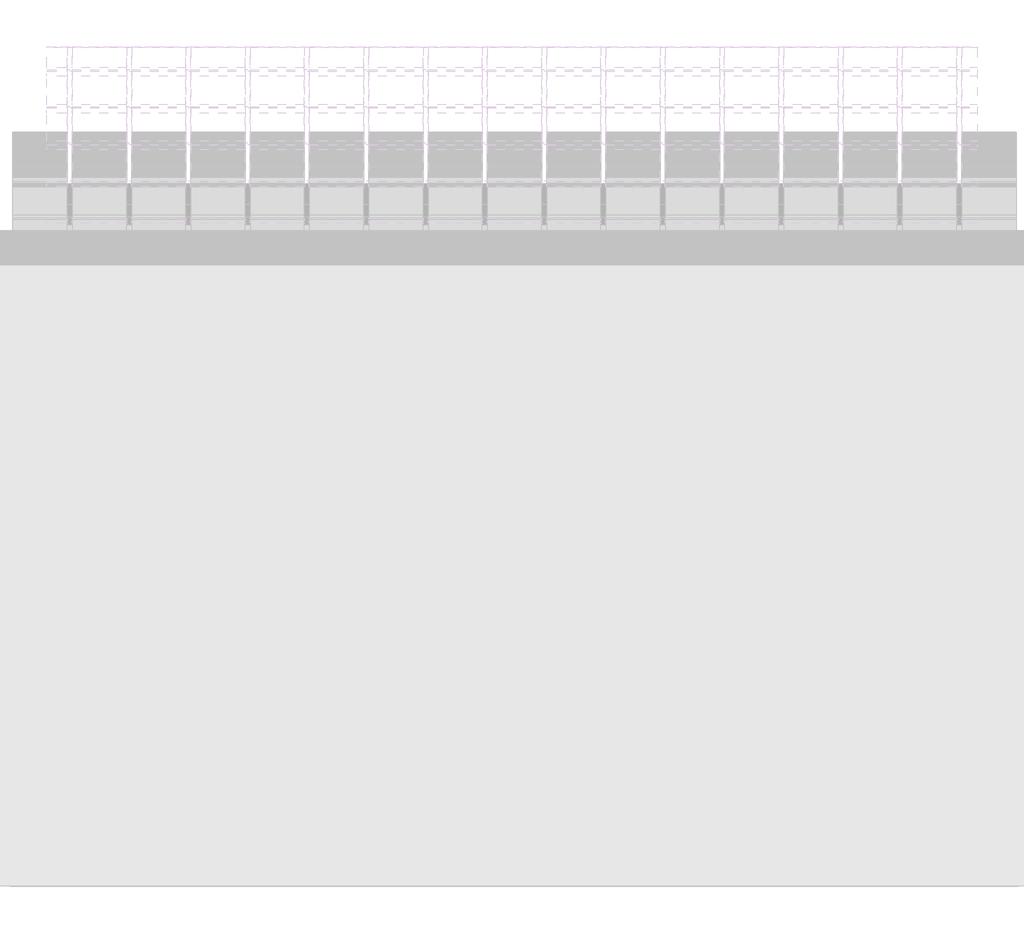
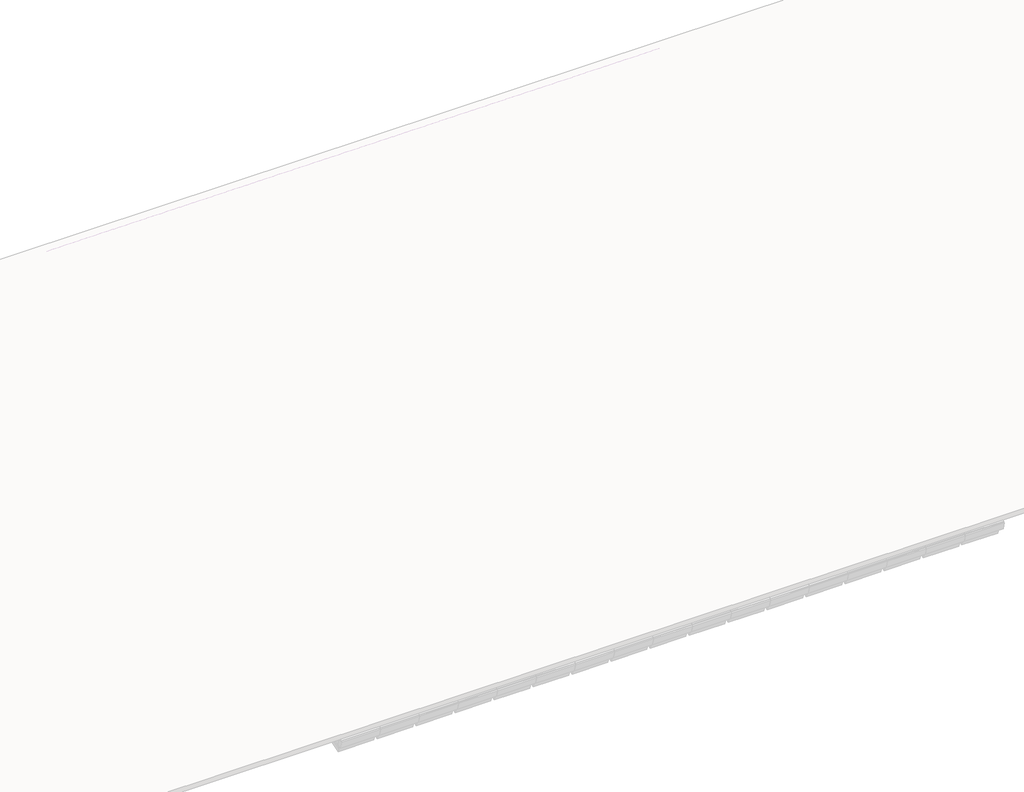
# One storey, part 35 of 57: 88 members, 36 plates.
"""IFC4 building model written with IfcOpenShell, lengths in millimetres."""

from ifc_helpers import new_model, si_unit, origin, place, context, project, spatial, transform, mapped, element, save
from components import rectangular_mullion_59984080, rectangular_mullion_2d2423ea, rectangular_mullion_caibro_e4384bba, rectangular_mullion_caibro_9bd7bc61, empty_system_panel_vazio_178faf58, empty_system_panel_vazio_2c78850d

model = new_model("IFC4")

# Units and contexts
model_context = context("Model", 3, world=origin())
ifc_project = project(units=[si_unit("LENGTHUNIT", "METRE", prefix="MILLI")], contexts=[model_context])

# Site, building, storey
site = spatial("IfcSite", under=ifc_project)
building = spatial("IfcBuilding", under=site)
storey = spatial("IfcBuildingStorey", under=building, Name="Nível 2", Elevation=4100.0)

# Members
placement = place(None, origin())
rectangular_mullion_shape = rectangular_mullion_59984080(model_context)
element("IfcMember", 1, ObjectType="Rectangular Mullion : Ripa", at=placement, inside=storey, context=model_context, shape_type="MappedRepresentation", body=[
    mapped(rectangular_mullion_shape, transform((28047.0899349, 8162.5832694, 3598.8241594), x_axis=(0.0, 0.9578262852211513, 0.2873478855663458), y_axis=(0.0, 0.2873478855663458, -0.9578262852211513), z_axis=(-1.0, 0.0, 0.0))),
])
element("IfcMember", 2, ObjectType="Rectangular Mullion : Ripa", at=placement, inside=storey, context=model_context, shape_type="MappedRepresentation", body=[
    mapped(rectangular_mullion_shape, transform((28644.1446913, 8162.5832694, 3598.8241594), x_axis=(0.0, 0.9578262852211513, 0.2873478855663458), y_axis=(0.0, 0.2873478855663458, -0.9578262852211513), z_axis=(-1.0, 0.0, 0.0))),
])
element("IfcMember", 3, ObjectType="Rectangular Mullion : Ripa", at=placement, inside=storey, context=model_context, shape_type="MappedRepresentation", body=[
    mapped(rectangular_mullion_shape, transform((29241.1994477, 8162.5832694, 3598.8241594), x_axis=(0.0, 0.9578262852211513, 0.2873478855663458), y_axis=(0.0, 0.2873478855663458, -0.9578262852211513), z_axis=(-1.0, 0.0, 0.0))),
])
element("IfcMember", 4, ObjectType="Rectangular Mullion : Ripa", at=placement, inside=storey, context=model_context, shape_type="MappedRepresentation", body=[
    mapped(rectangular_mullion_shape, transform((29838.2542041, 8162.5832694, 3598.8241594), x_axis=(0.0, 0.9578262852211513, 0.2873478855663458), y_axis=(0.0, 0.2873478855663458, -0.9578262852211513), z_axis=(-1.0, 0.0, 0.0))),
])
element("IfcMember", 5, ObjectType="Rectangular Mullion : Ripa", at=placement, inside=storey, context=model_context, shape_type="MappedRepresentation", body=[
    mapped(rectangular_mullion_shape, transform((28047.0899349, 8532.7605281, 3709.877337), x_axis=(0.0, 0.9578262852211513, 0.2873478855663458), y_axis=(0.0, 0.2873478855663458, -0.9578262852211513), z_axis=(-1.0, 0.0, 0.0))),
])
element("IfcMember", 6, ObjectType="Rectangular Mullion : Ripa", at=placement, inside=storey, context=model_context, shape_type="MappedRepresentation", body=[
    mapped(rectangular_mullion_shape, transform((28644.1446913, 8532.7605281, 3709.877337), x_axis=(0.0, 0.9578262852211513, 0.2873478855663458), y_axis=(0.0, 0.2873478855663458, -0.9578262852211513), z_axis=(-1.0, 0.0, 0.0))),
])
element("IfcMember", 7, ObjectType="Rectangular Mullion : Ripa", at=placement, inside=storey, context=model_context, shape_type="MappedRepresentation", body=[
    mapped(rectangular_mullion_shape, transform((29241.1994477, 8532.7605281, 3709.877337), x_axis=(0.0, 0.9578262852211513, 0.2873478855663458), y_axis=(0.0, 0.2873478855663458, -0.9578262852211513), z_axis=(-1.0, 0.0, 0.0))),
])
element("IfcMember", 8, ObjectType="Rectangular Mullion : Ripa", at=placement, inside=storey, context=model_context, shape_type="MappedRepresentation", body=[
    mapped(rectangular_mullion_shape, transform((29838.2542041, 8532.7605281, 3709.877337), x_axis=(0.0, 0.9578262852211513, 0.2873478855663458), y_axis=(0.0, 0.2873478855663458, -0.9578262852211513), z_axis=(-1.0, 0.0, 0.0))),
])
element("IfcMember", 9, ObjectType="Rectangular Mullion : Ripa", at=placement, inside=storey, context=model_context, shape_type="MappedRepresentation", body=[
    mapped(rectangular_mullion_shape, transform((28047.0899349, 8902.9377868, 3820.9305146), x_axis=(0.0, 0.9578262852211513, 0.2873478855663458), y_axis=(0.0, 0.2873478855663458, -0.9578262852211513), z_axis=(-1.0, 0.0, 0.0))),
])
element("IfcMember", 10, ObjectType="Rectangular Mullion : Ripa", at=placement, inside=storey, context=model_context, shape_type="MappedRepresentation", body=[
    mapped(rectangular_mullion_shape, transform((28644.1446913, 8902.9377868, 3820.9305146), x_axis=(0.0, 0.9578262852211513, 0.2873478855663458), y_axis=(0.0, 0.2873478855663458, -0.9578262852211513), z_axis=(-1.0, 0.0, 0.0))),
])
element("IfcMember", 11, ObjectType="Rectangular Mullion : Ripa", at=placement, inside=storey, context=model_context, shape_type="MappedRepresentation", body=[
    mapped(rectangular_mullion_shape, transform((29241.1994477, 8902.9377868, 3820.9305146), x_axis=(0.0, 0.9578262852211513, 0.2873478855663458), y_axis=(0.0, 0.2873478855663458, -0.9578262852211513), z_axis=(-1.0, 0.0, 0.0))),
])
element("IfcMember", 12, ObjectType="Rectangular Mullion : Ripa", at=placement, inside=storey, context=model_context, shape_type="MappedRepresentation", body=[
    mapped(rectangular_mullion_shape, transform((29838.2542041, 8902.9377868, 3820.9305146), x_axis=(0.0, 0.9578262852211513, 0.2873478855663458), y_axis=(0.0, 0.2873478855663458, -0.9578262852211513), z_axis=(-1.0, 0.0, 0.0))),
])
element("IfcMember", 13, ObjectType="Rectangular Mullion : Ripa", at=placement, inside=storey, context=model_context, shape_type="MappedRepresentation", body=[
    mapped(rectangular_mullion_shape, transform((28047.0899349, 9273.1150454, 3931.9836922), x_axis=(0.0, 0.9578262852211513, 0.2873478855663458), y_axis=(0.0, 0.2873478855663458, -0.9578262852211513), z_axis=(-1.0, 0.0, 0.0))),
])
element("IfcMember", 14, ObjectType="Rectangular Mullion : Ripa", at=placement, inside=storey, context=model_context, shape_type="MappedRepresentation", body=[
    mapped(rectangular_mullion_shape, transform((28644.1446913, 9273.1150454, 3931.9836922), x_axis=(0.0, 0.9578262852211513, 0.2873478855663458), y_axis=(0.0, 0.2873478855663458, -0.9578262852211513), z_axis=(-1.0, 0.0, 0.0))),
])
element("IfcMember", 15, ObjectType="Rectangular Mullion : Ripa", at=placement, inside=storey, context=model_context, shape_type="MappedRepresentation", body=[
    mapped(rectangular_mullion_shape, transform((26255.9256656, 10013.4695628, 4154.0900474), x_axis=(0.0, 0.9578262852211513, 0.2873478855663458), y_axis=(0.0, 0.2873478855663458, -0.9578262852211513), z_axis=(-1.0, 0.0, 0.0))),
])
element("IfcMember", 16, ObjectType="Rectangular Mullion : Ripa", at=placement, inside=storey, context=model_context, shape_type="MappedRepresentation", body=[
    mapped(rectangular_mullion_shape, transform((26852.980422, 10013.4695628, 4154.0900474), x_axis=(0.0, 0.9578262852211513, 0.2873478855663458), y_axis=(0.0, 0.2873478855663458, -0.9578262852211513), z_axis=(-1.0, 0.0, 0.0))),
])
element("IfcMember", 17, ObjectType="Rectangular Mullion : Ripa", at=placement, inside=storey, context=model_context, shape_type="MappedRepresentation", body=[
    mapped(rectangular_mullion_shape, transform((27450.0351784, 10013.4695628, 4154.0900474), x_axis=(0.0, 0.9578262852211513, 0.2873478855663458), y_axis=(0.0, 0.2873478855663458, -0.9578262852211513), z_axis=(-1.0, 0.0, 0.0))),
])
element("IfcMember", 18, ObjectType="Rectangular Mullion : Ripa", at=placement, inside=storey, context=model_context, shape_type="MappedRepresentation", body=[
    mapped(rectangular_mullion_shape, transform((26255.9256656, 10383.6468214, 4265.143225), x_axis=(0.0, 0.9578262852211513, 0.2873478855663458), y_axis=(0.0, 0.2873478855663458, -0.9578262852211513), z_axis=(-1.0, 0.0, 0.0))),
])
element("IfcMember", 19, ObjectType="Rectangular Mullion : Ripa", at=placement, inside=storey, context=model_context, shape_type="MappedRepresentation", body=[
    mapped(rectangular_mullion_shape, transform((26852.980422, 10383.6468214, 4265.143225), x_axis=(0.0, 0.9578262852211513, 0.2873478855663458), y_axis=(0.0, 0.2873478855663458, -0.9578262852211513), z_axis=(-1.0, 0.0, 0.0))),
])
element("IfcMember", 20, ObjectType="Rectangular Mullion : Ripa", at=placement, inside=storey, context=model_context, shape_type="MappedRepresentation", body=[
    mapped(rectangular_mullion_shape, transform((27450.0351784, 10383.6468214, 4265.143225), x_axis=(0.0, 0.9578262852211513, 0.2873478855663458), y_axis=(0.0, 0.2873478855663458, -0.9578262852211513), z_axis=(-1.0, 0.0, 0.0))),
])
element("IfcMember", 21, ObjectType="Rectangular Mullion : Ripa", at=placement, inside=storey, context=model_context, shape_type="MappedRepresentation", body=[
    mapped(rectangular_mullion_shape, transform((26255.9256656, 10753.8240801, 4376.1964026), x_axis=(0.0, 0.9578262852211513, 0.2873478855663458), y_axis=(0.0, 0.2873478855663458, -0.9578262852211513), z_axis=(-1.0, 0.0, 0.0))),
])
element("IfcMember", 22, ObjectType="Rectangular Mullion : Ripa", at=placement, inside=storey, context=model_context, shape_type="MappedRepresentation", body=[
    mapped(rectangular_mullion_shape, transform((26852.980422, 10753.8240801, 4376.1964026), x_axis=(0.0, 0.9578262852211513, 0.2873478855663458), y_axis=(0.0, 0.2873478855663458, -0.9578262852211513), z_axis=(-1.0, 0.0, 0.0))),
])
element("IfcMember", 23, ObjectType="Rectangular Mullion : Ripa", at=placement, inside=storey, context=model_context, shape_type="MappedRepresentation", body=[
    mapped(rectangular_mullion_shape, transform((27450.0351784, 10753.8240801, 4376.1964026), x_axis=(0.0, 0.9578262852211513, 0.2873478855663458), y_axis=(0.0, 0.2873478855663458, -0.9578262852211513), z_axis=(-1.0, 0.0, 0.0))),
])
element("IfcMember", 24, ObjectType="Rectangular Mullion : Ripa", at=placement, inside=storey, context=model_context, shape_type="MappedRepresentation", body=[
    mapped(rectangular_mullion_shape, transform((25061.8161527, 11124.0013387, 4487.2495802), x_axis=(0.0, 0.9578262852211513, 0.2873478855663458), y_axis=(0.0, 0.2873478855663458, -0.9578262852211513), z_axis=(-1.0, 0.0, 0.0))),
])
element("IfcMember", 25, ObjectType="Rectangular Mullion : Ripa", at=placement, inside=storey, context=model_context, shape_type="MappedRepresentation", body=[
    mapped(rectangular_mullion_shape, transform((25658.8709092, 11124.0013387, 4487.2495802), x_axis=(0.0, 0.9578262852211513, 0.2873478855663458), y_axis=(0.0, 0.2873478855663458, -0.9578262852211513), z_axis=(-1.0, 0.0, 0.0))),
])
element("IfcMember", 26, ObjectType="Rectangular Mullion : Ripa", at=placement, inside=storey, context=model_context, shape_type="MappedRepresentation", body=[
    mapped(rectangular_mullion_shape, transform((26255.9256656, 11124.0013387, 4487.2495802), x_axis=(0.0, 0.9578262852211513, 0.2873478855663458), y_axis=(0.0, 0.2873478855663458, -0.9578262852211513), z_axis=(-1.0, 0.0, 0.0))),
])
element("IfcMember", 27, ObjectType="Rectangular Mullion : Ripa", at=placement, inside=storey, context=model_context, shape_type="MappedRepresentation", body=[
    mapped(rectangular_mullion_shape, transform((26852.980422, 11124.0013387, 4487.2495802), x_axis=(0.0, 0.9578262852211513, 0.2873478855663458), y_axis=(0.0, 0.2873478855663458, -0.9578262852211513), z_axis=(-1.0, 0.0, 0.0))),
])
element("IfcMember", 28, ObjectType="Rectangular Mullion : Ripa", at=placement, inside=storey, context=model_context, shape_type="MappedRepresentation", body=[
    mapped(rectangular_mullion_shape, transform((27450.0351784, 11124.0013387, 4487.2495802), x_axis=(0.0, 0.9578262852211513, 0.2873478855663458), y_axis=(0.0, 0.2873478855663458, -0.9578262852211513), z_axis=(-1.0, 0.0, 0.0))),
])
element("IfcMember", 29, ObjectType="Rectangular Mullion : Ripa", at=placement, inside=storey, context=model_context, shape_type="MappedRepresentation", body=[
    mapped(rectangular_mullion_shape, transform((25061.8161527, 11494.1785974, 4598.3027578), x_axis=(0.0, 0.9578262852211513, 0.2873478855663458), y_axis=(0.0, 0.2873478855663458, -0.9578262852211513), z_axis=(-1.0, 0.0, 0.0))),
])
element("IfcMember", 30, ObjectType="Rectangular Mullion : Ripa", at=placement, inside=storey, context=model_context, shape_type="MappedRepresentation", body=[
    mapped(rectangular_mullion_shape, transform((25658.8709092, 11494.1785974, 4598.3027578), x_axis=(0.0, 0.9578262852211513, 0.2873478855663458), y_axis=(0.0, 0.2873478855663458, -0.9578262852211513), z_axis=(-1.0, 0.0, 0.0))),
])
element("IfcMember", 31, ObjectType="Rectangular Mullion : Ripa", at=placement, inside=storey, context=model_context, shape_type="MappedRepresentation", body=[
    mapped(rectangular_mullion_shape, transform((26255.9256656, 11494.1785974, 4598.3027578), x_axis=(0.0, 0.9578262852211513, 0.2873478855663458), y_axis=(0.0, 0.2873478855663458, -0.9578262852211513), z_axis=(-1.0, 0.0, 0.0))),
])
element("IfcMember", 32, ObjectType="Rectangular Mullion : Ripa", at=placement, inside=storey, context=model_context, shape_type="MappedRepresentation", body=[
    mapped(rectangular_mullion_shape, transform((26852.980422, 11494.1785974, 4598.3027578), x_axis=(0.0, 0.9578262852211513, 0.2873478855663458), y_axis=(0.0, 0.2873478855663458, -0.9578262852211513), z_axis=(-1.0, 0.0, 0.0))),
])
element("IfcMember", 33, ObjectType="Rectangular Mullion : Ripa", at=placement, inside=storey, context=model_context, shape_type="MappedRepresentation", body=[
    mapped(rectangular_mullion_shape, transform((27450.0351784, 11494.1785974, 4598.3027578), x_axis=(0.0, 0.9578262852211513, 0.2873478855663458), y_axis=(0.0, 0.2873478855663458, -0.9578262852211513), z_axis=(-1.0, 0.0, 0.0))),
])
element("IfcMember", 34, ObjectType="Rectangular Mullion : Ripa", at=placement, inside=storey, context=model_context, shape_type="MappedRepresentation", body=[
    mapped(rectangular_mullion_shape, transform((25061.8161527, 11864.3558561, 4709.3559354), x_axis=(0.0, 0.9578262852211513, 0.2873478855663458), y_axis=(0.0, 0.2873478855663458, -0.9578262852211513), z_axis=(-1.0, 0.0, 0.0))),
])
element("IfcMember", 35, ObjectType="Rectangular Mullion : Ripa", at=placement, inside=storey, context=model_context, shape_type="MappedRepresentation", body=[
    mapped(rectangular_mullion_shape, transform((25658.8709092, 11864.3558561, 4709.3559354), x_axis=(0.0, 0.9578262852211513, 0.2873478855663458), y_axis=(0.0, 0.2873478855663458, -0.9578262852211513), z_axis=(-1.0, 0.0, 0.0))),
])
element("IfcMember", 36, ObjectType="Rectangular Mullion : Ripa", at=placement, inside=storey, context=model_context, shape_type="MappedRepresentation", body=[
    mapped(rectangular_mullion_shape, transform((26255.9256656, 11864.3558561, 4709.3559354), x_axis=(0.0, 0.9578262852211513, 0.2873478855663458), y_axis=(0.0, 0.2873478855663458, -0.9578262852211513), z_axis=(-1.0, 0.0, 0.0))),
])
element("IfcMember", 37, ObjectType="Rectangular Mullion : Ripa", at=placement, inside=storey, context=model_context, shape_type="MappedRepresentation", body=[
    mapped(rectangular_mullion_shape, transform((26852.980422, 11864.3558561, 4709.3559354), x_axis=(0.0, 0.9578262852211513, 0.2873478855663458), y_axis=(0.0, 0.2873478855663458, -0.9578262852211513), z_axis=(-1.0, 0.0, 0.0))),
])
element("IfcMember", 38, ObjectType="Rectangular Mullion : Ripa", at=placement, inside=storey, context=model_context, shape_type="MappedRepresentation", body=[
    mapped(rectangular_mullion_shape, transform((27450.0351784, 11864.3558561, 4709.3559354), x_axis=(0.0, 0.9578262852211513, 0.2873478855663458), y_axis=(0.0, 0.2873478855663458, -0.9578262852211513), z_axis=(-1.0, 0.0, 0.0))),
])
rectangular_mullion_2_shape = rectangular_mullion_2d2423ea(model_context)
element("IfcMember", 39, ObjectType="Rectangular Mullion : Terça", at=placement, inside=storey, context=model_context, shape_type="MappedRepresentation", body=[
    mapped(rectangular_mullion_2_shape, transform((25061.8161527, 11285.144311, 4472.9506328), x_axis=(0.0, 0.9578262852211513, 0.2873478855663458), y_axis=(0.0, 0.2873478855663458, -0.9578262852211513), z_axis=(-1.0, 0.0, 0.0))),
])
element("IfcMember", 40, ObjectType="Rectangular Mullion : Terça", at=placement, inside=storey, context=model_context, shape_type="MappedRepresentation", body=[
    mapped(rectangular_mullion_2_shape, transform((25658.8709092, 11285.144311, 4472.9506328), x_axis=(0.0, 0.9578262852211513, 0.2873478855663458), y_axis=(0.0, 0.2873478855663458, -0.9578262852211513), z_axis=(-1.0, 0.0, 0.0))),
])
element("IfcMember", 41, ObjectType="Rectangular Mullion : Terça", at=placement, inside=storey, context=model_context, shape_type="MappedRepresentation", body=[
    mapped(rectangular_mullion_2_shape, transform((26255.9256656, 11285.144311, 4472.9506328), x_axis=(0.0, 0.9578262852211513, 0.2873478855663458), y_axis=(0.0, 0.2873478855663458, -0.9578262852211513), z_axis=(-1.0, 0.0, 0.0))),
])
element("IfcMember", 42, ObjectType="Rectangular Mullion : Terça", at=placement, inside=storey, context=model_context, shape_type="MappedRepresentation", body=[
    mapped(rectangular_mullion_2_shape, transform((26852.980422, 11285.144311, 4472.9506328), x_axis=(0.0, 0.9578262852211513, 0.2873478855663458), y_axis=(0.0, 0.2873478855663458, -0.9578262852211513), z_axis=(-1.0, 0.0, 0.0))),
])
element("IfcMember", 43, ObjectType="Rectangular Mullion : Terça", at=placement, inside=storey, context=model_context, shape_type="MappedRepresentation", body=[
    mapped(rectangular_mullion_2_shape, transform((27450.0351784, 11285.144311, 4472.9506328), x_axis=(0.0, 0.9578262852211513, 0.2873478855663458), y_axis=(0.0, 0.2873478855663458, -0.9578262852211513), z_axis=(-1.0, 0.0, 0.0))),
])
rectangular_mullion_caibro_shape = rectangular_mullion_caibro_e4384bba(model_context)
element("IfcMember", 44, ObjectType="Rectangular Mullion : Caibro", at=placement, inside=storey, context=model_context, shape_type="MappedRepresentation", body=[
    mapped(rectangular_mullion_caibro_shape, transform((25036.8161527, 11124.0013387, 4487.2495802), x_axis=(1.0, 0.0, 0.0), y_axis=(0.0, 0.28734788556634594, -0.9578262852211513), z_axis=(0.0, 0.9578262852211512, 0.2873478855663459))),
])
element("IfcMember", 45, ObjectType="Rectangular Mullion : Caibro", at=placement, inside=storey, context=model_context, shape_type="MappedRepresentation", body=[
    mapped(rectangular_mullion_caibro_shape, transform((25036.8161527, 11494.1785974, 4598.3027578), x_axis=(1.0, 0.0, 0.0), y_axis=(0.0, 0.287347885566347, -0.9578262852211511), z_axis=(0.0, 0.9578262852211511, 0.287347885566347))),
])
element("IfcMember", 46, ObjectType="Rectangular Mullion : Caibro", at=placement, inside=storey, context=model_context, shape_type="MappedRepresentation", body=[
    mapped(rectangular_mullion_caibro_shape, transform((25036.8161527, 11864.3558561, 4709.3559354), x_axis=(1.0, 0.0, 0.0), y_axis=(0.0, 0.28734788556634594, -0.9578262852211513), z_axis=(0.0, 0.9578262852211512, 0.2873478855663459))),
])
element("IfcMember", 47, ObjectType="Rectangular Mullion : Caibro", at=placement, inside=storey, context=model_context, shape_type="MappedRepresentation", body=[
    mapped(rectangular_mullion_caibro_shape, transform((25633.8709092, 11124.0013387, 4487.2495802), x_axis=(1.0, 0.0, 0.0), y_axis=(0.0, 0.2873478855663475, -0.9578262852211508), z_axis=(0.0, 0.9578262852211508, 0.2873478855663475))),
])
element("IfcMember", 48, ObjectType="Rectangular Mullion : Caibro", at=placement, inside=storey, context=model_context, shape_type="MappedRepresentation", body=[
    mapped(rectangular_mullion_caibro_shape, transform((25633.8709092, 11494.1785974, 4598.3027578), x_axis=(1.0, 0.0, 0.0), y_axis=(0.0, 0.28734788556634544, -0.9578262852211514), z_axis=(0.0, 0.9578262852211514, 0.28734788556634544))),
])
element("IfcMember", 49, ObjectType="Rectangular Mullion : Caibro", at=placement, inside=storey, context=model_context, shape_type="MappedRepresentation", body=[
    mapped(rectangular_mullion_caibro_shape, transform((25633.8709092, 11864.3558561, 4709.3559354), x_axis=(1.0, 0.0, 0.0), y_axis=(0.0, 0.28734788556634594, -0.9578262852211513), z_axis=(0.0, 0.9578262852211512, 0.2873478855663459))),
])
element("IfcMember", 50, ObjectType="Rectangular Mullion : Caibro", at=placement, inside=storey, context=model_context, shape_type="MappedRepresentation", body=[
    mapped(rectangular_mullion_caibro_shape, transform((26230.9256656, 10013.4695628, 4154.0900474), x_axis=(1.0, 0.0, 0.0), y_axis=(0.0, 0.28734788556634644, -0.9578262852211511), z_axis=(0.0, 0.957826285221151, 0.2873478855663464))),
])
element("IfcMember", 51, ObjectType="Rectangular Mullion : Caibro", at=placement, inside=storey, context=model_context, shape_type="MappedRepresentation", body=[
    mapped(rectangular_mullion_caibro_shape, transform((26230.9256656, 10383.6468214, 4265.143225), x_axis=(1.0, 0.0, 0.0), y_axis=(0.0, 0.28734788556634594, -0.9578262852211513), z_axis=(0.0, 0.9578262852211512, 0.2873478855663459))),
])
element("IfcMember", 52, ObjectType="Rectangular Mullion : Caibro", at=placement, inside=storey, context=model_context, shape_type="MappedRepresentation", body=[
    mapped(rectangular_mullion_caibro_shape, transform((26230.9256656, 10753.8240801, 4376.1964026), x_axis=(1.0, 0.0, 0.0), y_axis=(0.0, 0.28734788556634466, -0.9578262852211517), z_axis=(0.0, 0.9578262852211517, 0.28734788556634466))),
])
element("IfcMember", 53, ObjectType="Rectangular Mullion : Caibro", at=placement, inside=storey, context=model_context, shape_type="MappedRepresentation", body=[
    mapped(rectangular_mullion_caibro_shape, transform((26230.9256656, 11124.0013387, 4487.2495802), x_axis=(1.0, 0.0, 0.0), y_axis=(0.0, 0.2873478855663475, -0.9578262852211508), z_axis=(0.0, 0.9578262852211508, 0.2873478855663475))),
])
element("IfcMember", 54, ObjectType="Rectangular Mullion : Caibro", at=placement, inside=storey, context=model_context, shape_type="MappedRepresentation", body=[
    mapped(rectangular_mullion_caibro_shape, transform((26230.9256656, 11494.1785974, 4598.3027578), x_axis=(1.0, 0.0, 0.0), y_axis=(0.0, 0.28734788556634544, -0.9578262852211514), z_axis=(0.0, 0.9578262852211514, 0.28734788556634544))),
])
element("IfcMember", 55, ObjectType="Rectangular Mullion : Caibro", at=placement, inside=storey, context=model_context, shape_type="MappedRepresentation", body=[
    mapped(rectangular_mullion_caibro_shape, transform((26230.9256656, 11864.3558561, 4709.3559354), x_axis=(1.0, 0.0, 0.0), y_axis=(0.0, 0.28734788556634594, -0.9578262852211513), z_axis=(0.0, 0.9578262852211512, 0.2873478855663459))),
])
element("IfcMember", 56, ObjectType="Rectangular Mullion : Caibro", at=placement, inside=storey, context=model_context, shape_type="MappedRepresentation", body=[
    mapped(rectangular_mullion_caibro_shape, transform((26827.980422, 10013.4695628, 4154.0900474), x_axis=(1.0, 0.0, 0.0), y_axis=(0.0, 0.28734788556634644, -0.9578262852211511), z_axis=(0.0, 0.957826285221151, 0.2873478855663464))),
])
element("IfcMember", 57, ObjectType="Rectangular Mullion : Caibro", at=placement, inside=storey, context=model_context, shape_type="MappedRepresentation", body=[
    mapped(rectangular_mullion_caibro_shape, transform((26827.980422, 10383.6468214, 4265.143225), x_axis=(1.0, 0.0, 0.0), y_axis=(0.0, 0.28734788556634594, -0.9578262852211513), z_axis=(0.0, 0.9578262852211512, 0.2873478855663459))),
])
element("IfcMember", 58, ObjectType="Rectangular Mullion : Caibro", at=placement, inside=storey, context=model_context, shape_type="MappedRepresentation", body=[
    mapped(rectangular_mullion_caibro_shape, transform((26827.980422, 10753.8240801, 4376.1964026), x_axis=(1.0, 0.0, 0.0), y_axis=(0.0, 0.28734788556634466, -0.9578262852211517), z_axis=(0.0, 0.9578262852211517, 0.28734788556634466))),
])
element("IfcMember", 59, ObjectType="Rectangular Mullion : Caibro", at=placement, inside=storey, context=model_context, shape_type="MappedRepresentation", body=[
    mapped(rectangular_mullion_caibro_shape, transform((26827.980422, 11124.0013387, 4487.2495802), x_axis=(1.0, 0.0, 0.0), y_axis=(0.0, 0.2873478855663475, -0.9578262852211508), z_axis=(0.0, 0.9578262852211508, 0.2873478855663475))),
])
element("IfcMember", 60, ObjectType="Rectangular Mullion : Caibro", at=placement, inside=storey, context=model_context, shape_type="MappedRepresentation", body=[
    mapped(rectangular_mullion_caibro_shape, transform((26827.980422, 11494.1785974, 4598.3027578), x_axis=(1.0, 0.0, 0.0), y_axis=(0.0, 0.28734788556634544, -0.9578262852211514), z_axis=(0.0, 0.9578262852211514, 0.28734788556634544))),
])
element("IfcMember", 61, ObjectType="Rectangular Mullion : Caibro", at=placement, inside=storey, context=model_context, shape_type="MappedRepresentation", body=[
    mapped(rectangular_mullion_caibro_shape, transform((26827.980422, 11864.3558561, 4709.3559354), x_axis=(1.0, 0.0, 0.0), y_axis=(0.0, 0.28734788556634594, -0.9578262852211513), z_axis=(0.0, 0.9578262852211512, 0.2873478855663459))),
])
element("IfcMember", 62, ObjectType="Rectangular Mullion : Caibro", at=placement, inside=storey, context=model_context, shape_type="MappedRepresentation", body=[
    mapped(rectangular_mullion_caibro_shape, transform((27425.0351784, 10013.4695628, 4154.0900474), x_axis=(1.0, 0.0, 0.0), y_axis=(0.0, 0.2873478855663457, -0.9578262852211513), z_axis=(0.0, 0.9578262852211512, 0.28734788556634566))),
])
element("IfcMember", 63, ObjectType="Rectangular Mullion : Caibro", at=placement, inside=storey, context=model_context, shape_type="MappedRepresentation", body=[
    mapped(rectangular_mullion_caibro_shape, transform((27425.0351784, 10383.6468214, 4265.143225), x_axis=(1.0, 0.0, 0.0), y_axis=(0.0, 0.28734788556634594, -0.9578262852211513), z_axis=(0.0, 0.9578262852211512, 0.2873478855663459))),
])
element("IfcMember", 64, ObjectType="Rectangular Mullion : Caibro", at=placement, inside=storey, context=model_context, shape_type="MappedRepresentation", body=[
    mapped(rectangular_mullion_caibro_shape, transform((27425.0351784, 10753.8240801, 4376.1964026), x_axis=(1.0, 0.0, 0.0), y_axis=(0.0, 0.28734788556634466, -0.9578262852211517), z_axis=(0.0, 0.9578262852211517, 0.28734788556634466))),
])
element("IfcMember", 65, ObjectType="Rectangular Mullion : Caibro", at=placement, inside=storey, context=model_context, shape_type="MappedRepresentation", body=[
    mapped(rectangular_mullion_caibro_shape, transform((27425.0351784, 11124.0013387, 4487.2495802), x_axis=(1.0, 0.0, 0.0), y_axis=(0.0, 0.28734788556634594, -0.9578262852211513), z_axis=(0.0, 0.9578262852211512, 0.2873478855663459))),
])
element("IfcMember", 66, ObjectType="Rectangular Mullion : Caibro", at=placement, inside=storey, context=model_context, shape_type="MappedRepresentation", body=[
    mapped(rectangular_mullion_caibro_shape, transform((27425.0351784, 11494.1785974, 4598.3027578), x_axis=(1.0, 0.0, 0.0), y_axis=(0.0, 0.287347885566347, -0.9578262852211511), z_axis=(0.0, 0.9578262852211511, 0.287347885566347))),
])
element("IfcMember", 67, ObjectType="Rectangular Mullion : Caibro", at=placement, inside=storey, context=model_context, shape_type="MappedRepresentation", body=[
    mapped(rectangular_mullion_caibro_shape, transform((27425.0351784, 11864.3558561, 4709.3559354), x_axis=(1.0, 0.0, 0.0), y_axis=(0.0, 0.28734788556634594, -0.9578262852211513), z_axis=(0.0, 0.9578262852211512, 0.2873478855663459))),
])
element("IfcMember", 68, ObjectType="Rectangular Mullion : Caibro", at=placement, inside=storey, context=model_context, shape_type="MappedRepresentation", body=[
    mapped(rectangular_mullion_caibro_shape, transform((28022.0899349, 8162.5832694, 3598.8241594), x_axis=(1.0, 0.0, 0.0), y_axis=(0.0, 0.28734788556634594, -0.9578262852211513), z_axis=(0.0, 0.9578262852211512, 0.2873478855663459))),
])
element("IfcMember", 69, ObjectType="Rectangular Mullion : Caibro", at=placement, inside=storey, context=model_context, shape_type="MappedRepresentation", body=[
    mapped(rectangular_mullion_caibro_shape, transform((28022.0899349, 8532.7605281, 3709.877337), x_axis=(1.0, 0.0, 0.0), y_axis=(0.0, 0.2873478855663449, -0.9578262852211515), z_axis=(0.0, 0.9578262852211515, 0.2873478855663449))),
])
element("IfcMember", 70, ObjectType="Rectangular Mullion : Caibro", at=placement, inside=storey, context=model_context, shape_type="MappedRepresentation", body=[
    mapped(rectangular_mullion_caibro_shape, transform((28022.0899349, 8902.9377868, 3820.9305146), x_axis=(1.0, 0.0, 0.0), y_axis=(0.0, 0.2873478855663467, -0.9578262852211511), z_axis=(0.0, 0.9578262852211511, 0.2873478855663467))),
])
element("IfcMember", 71, ObjectType="Rectangular Mullion : Caibro", at=placement, inside=storey, context=model_context, shape_type="MappedRepresentation", body=[
    mapped(rectangular_mullion_caibro_shape, transform((28022.0899349, 9273.1150454, 3931.9836922), x_axis=(1.0, 0.0, 0.0), y_axis=(0.0, 0.2873478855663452, -0.9578262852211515), z_axis=(0.0, 0.9578262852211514, 0.28734788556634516))),
])
element("IfcMember", 72, ObjectType="Rectangular Mullion : Caibro", at=placement, inside=storey, context=model_context, shape_type="MappedRepresentation", body=[
    mapped(rectangular_mullion_caibro_shape, transform((28022.0899349, 9643.2923041, 4043.0368698), x_axis=(1.0, 0.0, 0.0), y_axis=(0.0, 0.2873478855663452, -0.9578262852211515), z_axis=(0.0, 0.9578262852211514, 0.28734788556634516))),
])
element("IfcMember", 73, ObjectType="Rectangular Mullion : Caibro", at=placement, inside=storey, context=model_context, shape_type="MappedRepresentation", body=[
    mapped(rectangular_mullion_caibro_shape, transform((28619.1446913, 8162.5832694, 3598.8241594), x_axis=(1.0, 0.0, 0.0), y_axis=(0.0, 0.28734788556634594, -0.9578262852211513), z_axis=(0.0, 0.9578262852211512, 0.2873478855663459))),
])
element("IfcMember", 74, ObjectType="Rectangular Mullion : Caibro", at=placement, inside=storey, context=model_context, shape_type="MappedRepresentation", body=[
    mapped(rectangular_mullion_caibro_shape, transform((28619.1446913, 8532.7605281, 3709.877337), x_axis=(1.0, 0.0, 0.0), y_axis=(0.0, 0.2873478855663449, -0.9578262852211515), z_axis=(0.0, 0.9578262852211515, 0.2873478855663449))),
])
element("IfcMember", 75, ObjectType="Rectangular Mullion : Caibro", at=placement, inside=storey, context=model_context, shape_type="MappedRepresentation", body=[
    mapped(rectangular_mullion_caibro_shape, transform((28619.1446913, 8902.9377868, 3820.9305146), x_axis=(1.0, 0.0, 0.0), y_axis=(0.0, 0.2873478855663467, -0.9578262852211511), z_axis=(0.0, 0.9578262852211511, 0.2873478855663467))),
])
element("IfcMember", 76, ObjectType="Rectangular Mullion : Caibro", at=placement, inside=storey, context=model_context, shape_type="MappedRepresentation", body=[
    mapped(rectangular_mullion_caibro_shape, transform((28619.1446913, 9273.1150454, 3931.9836922), x_axis=(1.0, 0.0, 0.0), y_axis=(0.0, 0.2873478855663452, -0.9578262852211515), z_axis=(0.0, 0.9578262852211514, 0.28734788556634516))),
])
element("IfcMember", 77, ObjectType="Rectangular Mullion : Caibro", at=placement, inside=storey, context=model_context, shape_type="MappedRepresentation", body=[
    mapped(rectangular_mullion_caibro_shape, transform((28619.1446913, 9643.2923041, 4043.0368698), x_axis=(1.0, 0.0, 0.0), y_axis=(0.0, 0.2873478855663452, -0.9578262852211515), z_axis=(0.0, 0.9578262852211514, 0.28734788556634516))),
])
element("IfcMember", 78, ObjectType="Rectangular Mullion : Caibro", at=placement, inside=storey, context=model_context, shape_type="MappedRepresentation", body=[
    mapped(rectangular_mullion_caibro_shape, transform((29216.1994477, 8162.5832694, 3598.8241594), x_axis=(1.0, 0.0, 0.0), y_axis=(0.0, 0.28734788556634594, -0.9578262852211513), z_axis=(0.0, 0.9578262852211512, 0.2873478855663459))),
])
element("IfcMember", 79, ObjectType="Rectangular Mullion : Caibro", at=placement, inside=storey, context=model_context, shape_type="MappedRepresentation", body=[
    mapped(rectangular_mullion_caibro_shape, transform((29216.1994477, 8532.7605281, 3709.877337), x_axis=(1.0, 0.0, 0.0), y_axis=(0.0, 0.2873478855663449, -0.9578262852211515), z_axis=(0.0, 0.9578262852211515, 0.2873478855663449))),
])
element("IfcMember", 80, ObjectType="Rectangular Mullion : Caibro", at=placement, inside=storey, context=model_context, shape_type="MappedRepresentation", body=[
    mapped(rectangular_mullion_caibro_shape, transform((29216.1994477, 8902.9377868, 3820.9305146), x_axis=(1.0, 0.0, 0.0), y_axis=(0.0, 0.2873478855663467, -0.9578262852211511), z_axis=(0.0, 0.9578262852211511, 0.2873478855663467))),
])
element("IfcMember", 81, ObjectType="Rectangular Mullion : Caibro", at=placement, inside=storey, context=model_context, shape_type="MappedRepresentation", body=[
    mapped(rectangular_mullion_caibro_shape, transform((29813.2542041, 8162.5832694, 3598.8241594), x_axis=(1.0, 0.0, 0.0), y_axis=(0.0, 0.2873478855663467, -0.9578262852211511), z_axis=(0.0, 0.9578262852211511, 0.2873478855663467))),
])
element("IfcMember", 82, ObjectType="Rectangular Mullion : Caibro", at=placement, inside=storey, context=model_context, shape_type="MappedRepresentation", body=[
    mapped(rectangular_mullion_caibro_shape, transform((29813.2542041, 8532.7605281, 3709.877337), x_axis=(1.0, 0.0, 0.0), y_axis=(0.0, 0.2873478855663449, -0.9578262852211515), z_axis=(0.0, 0.9578262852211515, 0.2873478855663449))),
])
element("IfcMember", 83, ObjectType="Rectangular Mullion : Caibro", at=placement, inside=storey, context=model_context, shape_type="MappedRepresentation", body=[
    mapped(rectangular_mullion_caibro_shape, transform((29813.2542041, 8902.9377868, 3820.9305146), x_axis=(1.0, 0.0, 0.0), y_axis=(0.0, 0.2873478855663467, -0.9578262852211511), z_axis=(0.0, 0.9578262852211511, 0.2873478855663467))),
])
rectangular_mullion_caibro_2_shape = rectangular_mullion_caibro_9bd7bc61(model_context)
element("IfcMember", 84, ObjectType="Rectangular Mullion : Caibro", at=placement, inside=storey, context=model_context, shape_type="MappedRepresentation", body=[
    mapped(rectangular_mullion_caibro_2_shape, transform((25036.8161527, 11285.144311, 4472.9506328), x_axis=(1.0, 0.0, 0.0), y_axis=(0.0, 0.28734788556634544, -0.9578262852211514), z_axis=(0.0, 0.9578262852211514, 0.28734788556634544))),
])
element("IfcMember", 85, ObjectType="Rectangular Mullion : Caibro", at=placement, inside=storey, context=model_context, shape_type="MappedRepresentation", body=[
    mapped(rectangular_mullion_caibro_2_shape, transform((25633.8709092, 11285.144311, 4472.9506328), x_axis=(1.0, 0.0, 0.0), y_axis=(0.0, 0.28734788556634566, -0.9578262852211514), z_axis=(0.0, 0.9578262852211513, 0.2873478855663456))),
])
element("IfcMember", 86, ObjectType="Rectangular Mullion : Caibro", at=placement, inside=storey, context=model_context, shape_type="MappedRepresentation", body=[
    mapped(rectangular_mullion_caibro_2_shape, transform((26230.9256656, 11285.144311, 4472.9506328), x_axis=(1.0, 0.0, 0.0), y_axis=(0.0, 0.28734788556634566, -0.9578262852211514), z_axis=(0.0, 0.9578262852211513, 0.2873478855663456))),
])
element("IfcMember", 87, ObjectType="Rectangular Mullion : Caibro", at=placement, inside=storey, context=model_context, shape_type="MappedRepresentation", body=[
    mapped(rectangular_mullion_caibro_2_shape, transform((26827.980422, 11285.144311, 4472.9506328), x_axis=(1.0, 0.0, 0.0), y_axis=(0.0, 0.28734788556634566, -0.9578262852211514), z_axis=(0.0, 0.9578262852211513, 0.2873478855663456))),
])
element("IfcMember", 88, ObjectType="Rectangular Mullion : Caibro", at=placement, inside=storey, context=model_context, shape_type="MappedRepresentation", body=[
    mapped(rectangular_mullion_caibro_2_shape, transform((27425.0351784, 11285.144311, 4472.9506328), x_axis=(1.0, 0.0, 0.0), y_axis=(0.0, 0.28734788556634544, -0.9578262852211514), z_axis=(0.0, 0.9578262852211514, 0.28734788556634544))),
])

# Plates
empty_system_panel_vazio_shape = empty_system_panel_vazio_178faf58(model_context)
element("IfcPlate", 89, ObjectType="Empty System Panel : Vazio", at=placement, inside=storey, context=model_context, shape_type="MappedRepresentation", body=[
    mapped(empty_system_panel_vazio_shape, transform((28320.6173131, 8162.5832694, 3598.8241594), x_axis=(1.0, 0.0, 0.0), y_axis=(0.0, 0.2873478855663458, -0.9578262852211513), z_axis=(0.0, 0.9578262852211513, 0.2873478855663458))),
])
element("IfcPlate", 90, ObjectType="Empty System Panel : Vazio", at=placement, inside=storey, context=model_context, shape_type="MappedRepresentation", body=[
    mapped(empty_system_panel_vazio_shape, transform((28917.6720695, 8162.5832694, 3598.8241594), x_axis=(1.0, 0.0, 0.0), y_axis=(0.0, 0.2873478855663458, -0.9578262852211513), z_axis=(0.0, 0.9578262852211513, 0.2873478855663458))),
])
element("IfcPlate", 91, ObjectType="Empty System Panel : Vazio", at=placement, inside=storey, context=model_context, shape_type="MappedRepresentation", body=[
    mapped(empty_system_panel_vazio_shape, transform((29514.7268259, 8162.5832694, 3598.8241594), x_axis=(1.0, 0.0, 0.0), y_axis=(0.0, 0.2873478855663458, -0.9578262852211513), z_axis=(0.0, 0.9578262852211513, 0.2873478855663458))),
])
element("IfcPlate", 92, ObjectType="Empty System Panel : Vazio", at=placement, inside=storey, context=model_context, shape_type="MappedRepresentation", body=[
    mapped(empty_system_panel_vazio_shape, transform((28320.6173131, 8532.7605281, 3709.877337), x_axis=(1.0, 0.0, 0.0), y_axis=(0.0, 0.2873478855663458, -0.9578262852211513), z_axis=(0.0, 0.9578262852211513, 0.2873478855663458))),
])
element("IfcPlate", 93, ObjectType="Empty System Panel : Vazio", at=placement, inside=storey, context=model_context, shape_type="MappedRepresentation", body=[
    mapped(empty_system_panel_vazio_shape, transform((28917.6720695, 8532.7605281, 3709.877337), x_axis=(1.0, 0.0, 0.0), y_axis=(0.0, 0.2873478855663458, -0.9578262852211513), z_axis=(0.0, 0.9578262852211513, 0.2873478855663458))),
])
element("IfcPlate", 94, ObjectType="Empty System Panel : Vazio", at=placement, inside=storey, context=model_context, shape_type="MappedRepresentation", body=[
    mapped(empty_system_panel_vazio_shape, transform((29514.7268259, 8532.7605281, 3709.877337), x_axis=(1.0, 0.0, 0.0), y_axis=(0.0, 0.2873478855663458, -0.9578262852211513), z_axis=(0.0, 0.9578262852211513, 0.2873478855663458))),
])
element("IfcPlate", 95, ObjectType="Empty System Panel : Vazio", at=placement, inside=storey, context=model_context, shape_type="MappedRepresentation", body=[
    mapped(empty_system_panel_vazio_shape, transform((28320.6173131, 8902.9377868, 3820.9305146), x_axis=(1.0, 0.0, 0.0), y_axis=(0.0, 0.2873478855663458, -0.9578262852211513), z_axis=(0.0, 0.9578262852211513, 0.2873478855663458))),
])
element("IfcPlate", 96, ObjectType="Empty System Panel : Vazio", at=placement, inside=storey, context=model_context, shape_type="MappedRepresentation", body=[
    mapped(empty_system_panel_vazio_shape, transform((28917.6720695, 8902.9377868, 3820.9305146), x_axis=(1.0, 0.0, 0.0), y_axis=(0.0, 0.2873478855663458, -0.9578262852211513), z_axis=(0.0, 0.9578262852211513, 0.2873478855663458))),
])
element("IfcPlate", 97, ObjectType="Empty System Panel : Vazio", at=placement, inside=storey, context=model_context, shape_type="MappedRepresentation", body=[
    mapped(empty_system_panel_vazio_shape, transform((29514.7268259, 8902.9377868, 3820.9305146), x_axis=(1.0, 0.0, 0.0), y_axis=(0.0, 0.2873478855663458, -0.9578262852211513), z_axis=(0.0, 0.9578262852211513, 0.2873478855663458))),
])
element("IfcPlate", 98, ObjectType="Empty System Panel : Vazio", at=placement, inside=storey, context=model_context, shape_type="MappedRepresentation", body=[
    mapped(empty_system_panel_vazio_shape, transform((28320.6173131, 9273.1150454, 3931.9836922), x_axis=(1.0, 0.0, 0.0), y_axis=(0.0, 0.2873478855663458, -0.9578262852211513), z_axis=(0.0, 0.9578262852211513, 0.2873478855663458))),
])
element("IfcPlate", 99, ObjectType="Empty System Panel : Vazio", at=placement, inside=storey, context=model_context, shape_type="MappedRepresentation", body=[
    mapped(empty_system_panel_vazio_shape, transform((28917.6720695, 9273.1150454, 3931.9836922), x_axis=(1.0, 0.0, 0.0), y_axis=(0.0, 0.2873478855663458, -0.9578262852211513), z_axis=(0.0, 0.9578262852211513, 0.2873478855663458))),
])
element("IfcPlate", 100, ObjectType="Empty System Panel : Vazio", at=placement, inside=storey, context=model_context, shape_type="MappedRepresentation", body=[
    mapped(empty_system_panel_vazio_shape, transform((28320.6173131, 9643.2923041, 4043.0368698), x_axis=(1.0, 0.0, 0.0), y_axis=(0.0, 0.2873478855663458, -0.9578262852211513), z_axis=(0.0, 0.9578262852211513, 0.2873478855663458))),
])
element("IfcPlate", 101, ObjectType="Empty System Panel : Vazio", at=placement, inside=storey, context=model_context, shape_type="MappedRepresentation", body=[
    mapped(empty_system_panel_vazio_shape, transform((28917.6720695, 9643.2923041, 4043.0368698), x_axis=(1.0, 0.0, 0.0), y_axis=(0.0, 0.2873478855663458, -0.9578262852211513), z_axis=(0.0, 0.9578262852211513, 0.2873478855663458))),
])
element("IfcPlate", 102, ObjectType="Empty System Panel : Vazio", at=placement, inside=storey, context=model_context, shape_type="MappedRepresentation", body=[
    mapped(empty_system_panel_vazio_shape, transform((26529.4530438, 10013.4695628, 4154.0900474), x_axis=(1.0, 0.0, 0.0), y_axis=(0.0, 0.2873478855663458, -0.9578262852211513), z_axis=(0.0, 0.9578262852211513, 0.2873478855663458))),
])
element("IfcPlate", 103, ObjectType="Empty System Panel : Vazio", at=placement, inside=storey, context=model_context, shape_type="MappedRepresentation", body=[
    mapped(empty_system_panel_vazio_shape, transform((27126.5078002, 10013.4695628, 4154.0900474), x_axis=(1.0, 0.0, 0.0), y_axis=(0.0, 0.2873478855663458, -0.9578262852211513), z_axis=(0.0, 0.9578262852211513, 0.2873478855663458))),
])
element("IfcPlate", 104, ObjectType="Empty System Panel : Vazio", at=placement, inside=storey, context=model_context, shape_type="MappedRepresentation", body=[
    mapped(empty_system_panel_vazio_shape, transform((27723.5625566, 10013.4695628, 4154.0900474), x_axis=(1.0, 0.0, 0.0), y_axis=(0.0, 0.2873478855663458, -0.9578262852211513), z_axis=(0.0, 0.9578262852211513, 0.2873478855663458))),
])
element("IfcPlate", 105, ObjectType="Empty System Panel : Vazio", at=placement, inside=storey, context=model_context, shape_type="MappedRepresentation", body=[
    mapped(empty_system_panel_vazio_shape, transform((26529.4530438, 10383.6468214, 4265.143225), x_axis=(1.0, 0.0, 0.0), y_axis=(0.0, 0.2873478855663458, -0.9578262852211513), z_axis=(0.0, 0.9578262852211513, 0.2873478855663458))),
])
element("IfcPlate", 106, ObjectType="Empty System Panel : Vazio", at=placement, inside=storey, context=model_context, shape_type="MappedRepresentation", body=[
    mapped(empty_system_panel_vazio_shape, transform((27126.5078002, 10383.6468214, 4265.143225), x_axis=(1.0, 0.0, 0.0), y_axis=(0.0, 0.2873478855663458, -0.9578262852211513), z_axis=(0.0, 0.9578262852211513, 0.2873478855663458))),
])
element("IfcPlate", 107, ObjectType="Empty System Panel : Vazio", at=placement, inside=storey, context=model_context, shape_type="MappedRepresentation", body=[
    mapped(empty_system_panel_vazio_shape, transform((27723.5625566, 10383.6468214, 4265.143225), x_axis=(1.0, 0.0, 0.0), y_axis=(0.0, 0.2873478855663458, -0.9578262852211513), z_axis=(0.0, 0.9578262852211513, 0.2873478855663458))),
])
element("IfcPlate", 108, ObjectType="Empty System Panel : Vazio", at=placement, inside=storey, context=model_context, shape_type="MappedRepresentation", body=[
    mapped(empty_system_panel_vazio_shape, transform((26529.4530438, 10753.8240801, 4376.1964026), x_axis=(1.0, 0.0, 0.0), y_axis=(0.0, 0.2873478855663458, -0.9578262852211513), z_axis=(0.0, 0.9578262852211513, 0.2873478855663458))),
])
element("IfcPlate", 109, ObjectType="Empty System Panel : Vazio", at=placement, inside=storey, context=model_context, shape_type="MappedRepresentation", body=[
    mapped(empty_system_panel_vazio_shape, transform((27126.5078002, 10753.8240801, 4376.1964026), x_axis=(1.0, 0.0, 0.0), y_axis=(0.0, 0.2873478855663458, -0.9578262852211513), z_axis=(0.0, 0.9578262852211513, 0.2873478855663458))),
])
element("IfcPlate", 110, ObjectType="Empty System Panel : Vazio", at=placement, inside=storey, context=model_context, shape_type="MappedRepresentation", body=[
    mapped(empty_system_panel_vazio_shape, transform((27723.5625566, 10753.8240801, 4376.1964026), x_axis=(1.0, 0.0, 0.0), y_axis=(0.0, 0.2873478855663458, -0.9578262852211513), z_axis=(0.0, 0.9578262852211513, 0.2873478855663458))),
])
element("IfcPlate", 111, ObjectType="Empty System Panel : Vazio", at=placement, inside=storey, context=model_context, shape_type="MappedRepresentation", body=[
    mapped(empty_system_panel_vazio_shape, transform((26529.4530438, 11124.0013387, 4487.2495802), x_axis=(1.0, 0.0, 0.0), y_axis=(0.0, 0.2873478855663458, -0.9578262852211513), z_axis=(0.0, 0.9578262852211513, 0.2873478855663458))),
])
element("IfcPlate", 112, ObjectType="Empty System Panel : Vazio", at=placement, inside=storey, context=model_context, shape_type="MappedRepresentation", body=[
    mapped(empty_system_panel_vazio_shape, transform((27126.5078002, 11124.0013387, 4487.2495802), x_axis=(1.0, 0.0, 0.0), y_axis=(0.0, 0.2873478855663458, -0.9578262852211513), z_axis=(0.0, 0.9578262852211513, 0.2873478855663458))),
])
element("IfcPlate", 113, ObjectType="Empty System Panel : Vazio", at=placement, inside=storey, context=model_context, shape_type="MappedRepresentation", body=[
    mapped(empty_system_panel_vazio_shape, transform((27723.5625566, 11124.0013387, 4487.2495802), x_axis=(1.0, 0.0, 0.0), y_axis=(0.0, 0.2873478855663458, -0.9578262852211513), z_axis=(0.0, 0.9578262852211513, 0.2873478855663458))),
])
element("IfcPlate", 114, ObjectType="Empty System Panel : Vazio", at=placement, inside=storey, context=model_context, shape_type="MappedRepresentation", body=[
    mapped(empty_system_panel_vazio_shape, transform((26529.4530438, 11494.1785974, 4598.3027578), x_axis=(1.0, 0.0, 0.0), y_axis=(0.0, 0.2873478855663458, -0.9578262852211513), z_axis=(0.0, 0.9578262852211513, 0.2873478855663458))),
])
element("IfcPlate", 115, ObjectType="Empty System Panel : Vazio", at=placement, inside=storey, context=model_context, shape_type="MappedRepresentation", body=[
    mapped(empty_system_panel_vazio_shape, transform((27126.5078002, 11494.1785974, 4598.3027578), x_axis=(1.0, 0.0, 0.0), y_axis=(0.0, 0.2873478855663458, -0.9578262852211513), z_axis=(0.0, 0.9578262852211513, 0.2873478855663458))),
])
element("IfcPlate", 116, ObjectType="Empty System Panel : Vazio", at=placement, inside=storey, context=model_context, shape_type="MappedRepresentation", body=[
    mapped(empty_system_panel_vazio_shape, transform((27723.5625566, 11494.1785974, 4598.3027578), x_axis=(1.0, 0.0, 0.0), y_axis=(0.0, 0.2873478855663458, -0.9578262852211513), z_axis=(0.0, 0.9578262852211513, 0.2873478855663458))),
])
element("IfcPlate", 117, ObjectType="Empty System Panel : Vazio", at=placement, inside=storey, context=model_context, shape_type="MappedRepresentation", body=[
    mapped(empty_system_panel_vazio_shape, transform((26529.4530438, 11864.3558561, 4709.3559354), x_axis=(1.0, 0.0, 0.0), y_axis=(0.0, 0.2873478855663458, -0.9578262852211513), z_axis=(0.0, 0.9578262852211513, 0.2873478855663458))),
])
element("IfcPlate", 118, ObjectType="Empty System Panel : Vazio", at=placement, inside=storey, context=model_context, shape_type="MappedRepresentation", body=[
    mapped(empty_system_panel_vazio_shape, transform((27126.5078002, 11864.3558561, 4709.3559354), x_axis=(1.0, 0.0, 0.0), y_axis=(0.0, 0.2873478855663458, -0.9578262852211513), z_axis=(0.0, 0.9578262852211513, 0.2873478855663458))),
])
element("IfcPlate", 119, ObjectType="Empty System Panel : Vazio", at=placement, inside=storey, context=model_context, shape_type="MappedRepresentation", body=[
    mapped(empty_system_panel_vazio_shape, transform((27723.5625566, 11864.3558561, 4709.3559354), x_axis=(1.0, 0.0, 0.0), y_axis=(0.0, 0.2873478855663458, -0.9578262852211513), z_axis=(0.0, 0.9578262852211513, 0.2873478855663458))),
])
empty_system_panel_vazio_2_shape = empty_system_panel_vazio_2c78850d(model_context)
element("IfcPlate", 120, ObjectType="Empty System Panel : Vazio", at=placement, inside=storey, context=model_context, shape_type="MappedRepresentation", body=[
    mapped(empty_system_panel_vazio_2_shape, transform((25335.3435309, 11313.8790995, 4481.5710693), x_axis=(1.0, 0.0, 0.0), y_axis=(0.0, 0.2873478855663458, -0.9578262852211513), z_axis=(0.0, 0.9578262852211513, 0.2873478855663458))),
])
element("IfcPlate", 121, ObjectType="Empty System Panel : Vazio", at=placement, inside=storey, context=model_context, shape_type="MappedRepresentation", body=[
    mapped(empty_system_panel_vazio_2_shape, transform((25932.3982874, 11313.8790995, 4481.5710693), x_axis=(1.0, 0.0, 0.0), y_axis=(0.0, 0.2873478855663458, -0.9578262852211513), z_axis=(0.0, 0.9578262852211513, 0.2873478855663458))),
])
element("IfcPlate", 122, ObjectType="Empty System Panel : Vazio", at=placement, inside=storey, context=model_context, shape_type="MappedRepresentation", body=[
    mapped(empty_system_panel_vazio_2_shape, transform((26529.4530438, 11313.8790995, 4481.5710693), x_axis=(1.0, 0.0, 0.0), y_axis=(0.0, 0.2873478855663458, -0.9578262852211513), z_axis=(0.0, 0.9578262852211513, 0.2873478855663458))),
])
element("IfcPlate", 123, ObjectType="Empty System Panel : Vazio", at=placement, inside=storey, context=model_context, shape_type="MappedRepresentation", body=[
    mapped(empty_system_panel_vazio_2_shape, transform((27126.5078002, 11313.8790995, 4481.5710693), x_axis=(1.0, 0.0, 0.0), y_axis=(0.0, 0.2873478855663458, -0.9578262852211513), z_axis=(0.0, 0.9578262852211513, 0.2873478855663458))),
])
element("IfcPlate", 124, ObjectType="Empty System Panel : Vazio", at=placement, inside=storey, context=model_context, shape_type="MappedRepresentation", body=[
    mapped(empty_system_panel_vazio_2_shape, transform((27723.5625566, 11313.8790995, 4481.5710693), x_axis=(1.0, 0.0, 0.0), y_axis=(0.0, 0.2873478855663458, -0.9578262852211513), z_axis=(0.0, 0.9578262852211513, 0.2873478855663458))),
])

save(model, "model.ifc")
